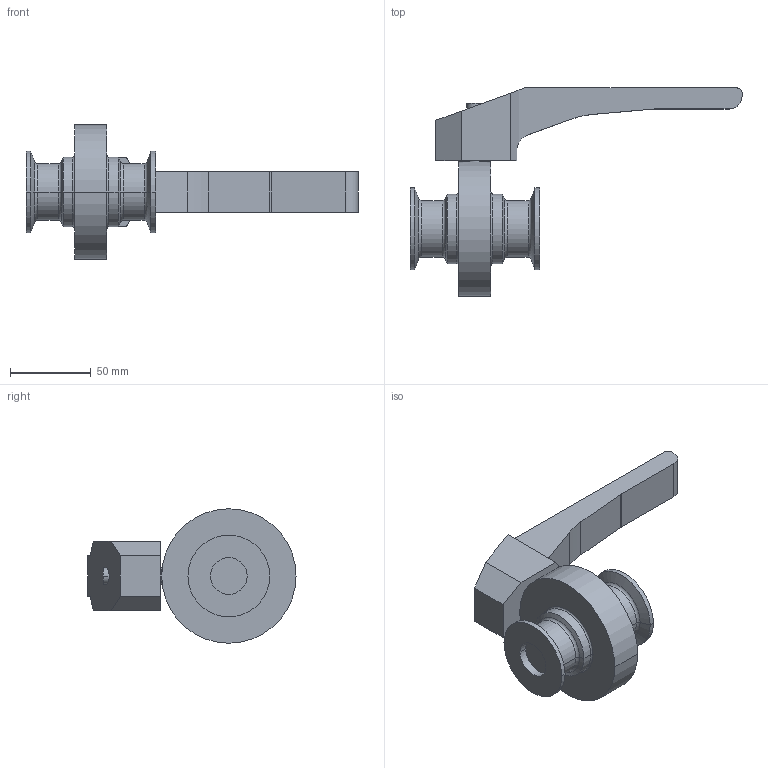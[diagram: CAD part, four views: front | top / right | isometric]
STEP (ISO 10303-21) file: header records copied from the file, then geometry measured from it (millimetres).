
FILE_DESCRIPTION(('OneSpaceDesigner STEP Export'),'2;1');
FILE_NAME('SV1-1zoll-H-12CL-vereint.stp','2007-04-20T11:13:28',(''),(''),'OneSpace Designer STEP processor for AP214 (Solid Model)','OneSpace Modeling 15.00 06-Feb-2007 (C) CoCreate Software GmbH','');
FILE_SCHEMA(('AUTOMOTIVE_DESIGN { 1 0 10303 214 1 1 1 1 }'));
Length unit declared in the file: millimetre
Products named in the file (3): Handhebel-SV-40-100; SV1-1zoll-H-12CL; SV1-1zoll-H-12CL-vereint
Assembly tree (2 placements, depth 2):
  SV1-1zoll-H-12CL-vereint
    SV1-1zoll-H-12CL
    Handhebel-SV-40-100
Bounding box: 205 x 128.5 x 83 mm (x, y, z)
Volume: 305696.8 mm3; surface area: 48196.4 mm2
Topology: 2 solids, 2 shells, 72 faces, 159 edges, 96 vertices
Faces by surface type: cylinder 27, plane 25, torus 12, cone 8
Entity records: 2205 total; most frequent: CARTESIAN_POINT 677, ORIENTED_EDGE 318, DIRECTION 287, EDGE_CURVE 159, AXIS2_PLACEMENT_3D 105, VERTEX_POINT 96, VECTOR 77, LINE 77
